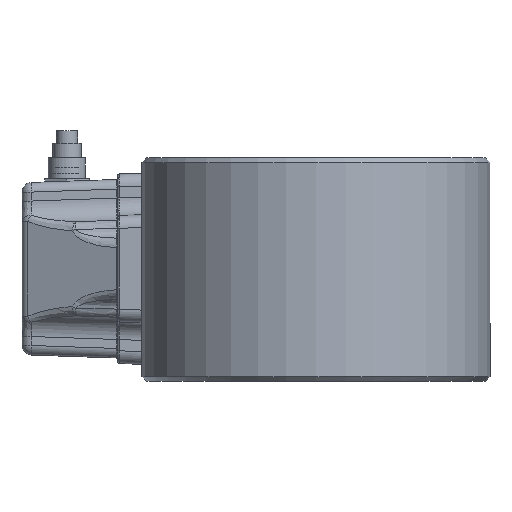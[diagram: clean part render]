
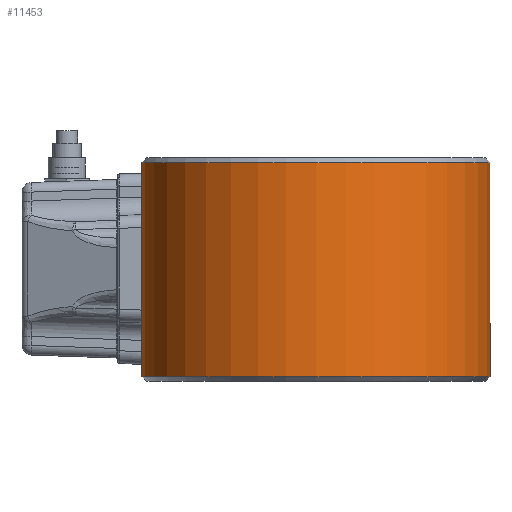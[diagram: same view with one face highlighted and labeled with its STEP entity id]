
A CAD part, left-side view. The second image highlights one B-rep face of the part: STEP entity #11453.
In plain terms, the highlighted cylindrical face has radius 54.5 mm (diameter 109 mm), a partial arc.
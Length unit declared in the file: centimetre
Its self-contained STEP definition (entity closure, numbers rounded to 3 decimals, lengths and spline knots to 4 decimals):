
#2185=VECTOR('',#15590,1.);
#2186=VECTOR('',#15591,1.);
#2717=LINE('',#45036,#2185);
#2718=LINE('',#45050,#2186);
#3805=VERTEX_POINT('',#45021);
#3807=VERTEX_POINT('',#45029);
#3810=VERTEX_POINT('',#45037);
#3812=VERTEX_POINT('',#45049);
#4468=CIRCLE('',#12718,5.45);
#4472=CIRCLE('',#12724,5.45);
#5953=EDGE_CURVE('',#3807,#3805,#4468,.T.);
#5956=EDGE_CURVE('',#3805,#3810,#2717,.T.);
#5959=EDGE_CURVE('',#3807,#3812,#2718,.T.);
#5961=EDGE_CURVE('',#3810,#3812,#4472,.T.);
#8936=ORIENTED_EDGE('',*,*,#5953,.F.);
#8937=ORIENTED_EDGE('',*,*,#5959,.T.);
#8938=ORIENTED_EDGE('',*,*,#5961,.F.);
#8939=ORIENTED_EDGE('',*,*,#5956,.F.);
#9831=EDGE_LOOP('',(#8936,#8937,#8938,#8939));
#10723=FACE_BOUND('',#9831,.T.);
#11453=ADVANCED_FACE('',(#10723),#45332,.T.);
#12718=AXIS2_PLACEMENT_3D('',#45030,#15583,#15584);
#12724=AXIS2_PLACEMENT_3D('',#45053,#15596,#15597);
#12734=AXIS2_PLACEMENT_3D('',#45067,#15614,#15615);
#15583=DIRECTION('',(0.,0.,1.));
#15584=DIRECTION('',(-5.45,0.,0.));
#15590=DIRECTION('',(0.,0.,-1.));
#15591=DIRECTION('',(0.,0.,-1.));
#15596=DIRECTION('',(0.,0.,-1.));
#15597=DIRECTION('',(-5.45,0.,0.));
#15614=DIRECTION('',(0.,0.,-1.));
#15615=DIRECTION('',(-5.45,0.,0.));
#45021=CARTESIAN_POINT('',(-5.519,-8.0392,5.5968));
#45029=CARTESIAN_POINT('',(-5.519,-5.4995,5.5968));
#45030=CARTESIAN_POINT('',(-10.819,-6.7693,5.5968));
#45036=CARTESIAN_POINT('',(-5.519,-8.0392,5.7468));
#45037=CARTESIAN_POINT('',(-5.519,-8.0392,-1.1032));
#45049=CARTESIAN_POINT('',(-5.519,-5.4995,-1.1032));
#45050=CARTESIAN_POINT('',(-5.519,-5.4995,5.7468));
#45053=CARTESIAN_POINT('',(-10.819,-6.7693,-1.1032));
#45067=CARTESIAN_POINT('',(-10.819,-6.7693,5.7468));
#45332=CYLINDRICAL_SURFACE('',#12734,5.45);
